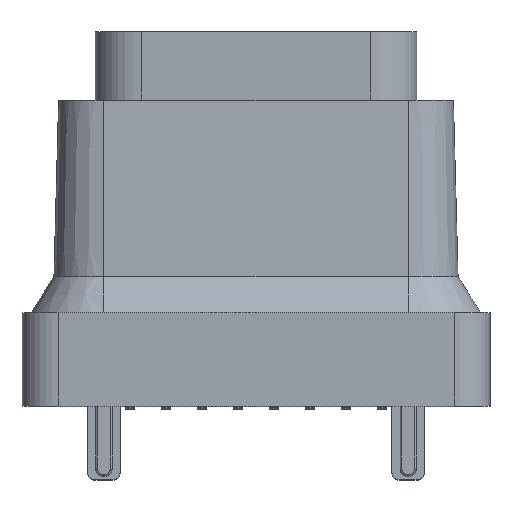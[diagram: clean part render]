
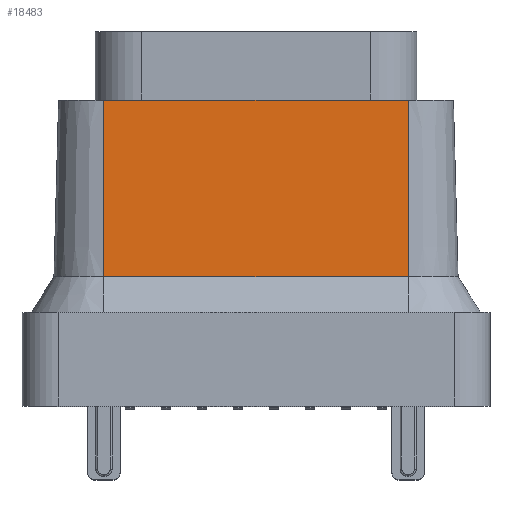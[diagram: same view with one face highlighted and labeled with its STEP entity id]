
A CAD part, top view. The second image highlights one B-rep face of the part: STEP entity #18483.
In plain terms, the highlighted planar face has unit normal (0, 0.026, 1).
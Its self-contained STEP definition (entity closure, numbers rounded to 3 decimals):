
#880 = ORIENTED_EDGE ( 'NONE', *, *, #17160, .T. ) ;
#2408 = ORIENTED_EDGE ( 'NONE', *, *, #16964, .T. ) ;
#3214 = CARTESIAN_POINT ( 'NONE',  ( 15.775, 3.6, 32.863 ) ) ;
#3303 = CARTESIAN_POINT ( 'NONE',  ( 24.225, 8.5, 32.734 ) ) ;
#4050 = PLANE ( 'NONE',  #8413 ) ;
#4229 = VECTOR ( 'NONE', #13858, 1000. ) ;
#4746 = EDGE_LOOP ( 'NONE', ( #8009, #12220, #880, #2408 ) ) ;
#4787 = CARTESIAN_POINT ( 'NONE',  ( 24.225, 3.6, 32.863 ) ) ;
#5093 = VERTEX_POINT ( 'NONE', #3303 ) ;
#5441 = CARTESIAN_POINT ( 'NONE',  ( 20., 6.05, 32.799 ) ) ;
#5474 = VECTOR ( 'NONE', #5661, 1000. ) ;
#5566 = VERTEX_POINT ( 'NONE', #3214 ) ;
#5661 = DIRECTION ( 'NONE',  ( 1., 0., 0. ) ) ;
#5703 = VERTEX_POINT ( 'NONE', #15707 ) ;
#8009 = ORIENTED_EDGE ( 'NONE', *, *, #16105, .T. ) ;
#8413 = AXIS2_PLACEMENT_3D ( 'NONE', #5441, #11539, #17634 ) ;
#8563 = LINE ( 'NONE', #14659, #5474 ) ;
#8858 = EDGE_CURVE ( 'NONE', #5703, #5566, #18785, .T. ) ;
#9481 = LINE ( 'NONE', #18675, #11235 ) ;
#10757 = LINE ( 'NONE', #12151, #4229 ) ;
#11188 = CARTESIAN_POINT ( 'NONE',  ( 15.775, 8.5, 32.734 ) ) ;
#11235 = VECTOR ( 'NONE', #14365, 1000. ) ;
#11539 = DIRECTION ( 'NONE',  ( 0., 0.026, 1. ) ) ;
#11748 = DIRECTION ( 'NONE',  ( 0., -1., 0.026 ) ) ;
#12151 = CARTESIAN_POINT ( 'NONE',  ( 24.225, 8.5, 32.734 ) ) ;
#12220 = ORIENTED_EDGE ( 'NONE', *, *, #8858, .T. ) ;
#12953 = FACE_OUTER_BOUND ( 'NONE', #4746, .T. ) ;
#13858 = DIRECTION ( 'NONE',  ( -1., 0., 0. ) ) ;
#13944 = VERTEX_POINT ( 'NONE', #4787 ) ;
#14365 = DIRECTION ( 'NONE',  ( 0., 1., -0.026 ) ) ;
#14659 = CARTESIAN_POINT ( 'NONE',  ( 15.775, 3.6, 32.863 ) ) ;
#15585 = VECTOR ( 'NONE', #11748, 1000. ) ;
#15707 = CARTESIAN_POINT ( 'NONE',  ( 15.775, 8.5, 32.734 ) ) ;
#16105 = EDGE_CURVE ( 'NONE', #5093, #5703, #10757, .T. ) ;
#16964 = EDGE_CURVE ( 'NONE', #13944, #5093, #9481, .T. ) ;
#17160 = EDGE_CURVE ( 'NONE', #5566, #13944, #8563, .T. ) ;
#17634 = DIRECTION ( 'NONE',  ( 1., 0., 0. ) ) ;
#18483 = ADVANCED_FACE ( 'NONE', ( #12953 ), #4050, .T. ) ;
#18675 = CARTESIAN_POINT ( 'NONE',  ( 24.225, 3.6, 32.863 ) ) ;
#18785 = LINE ( 'NONE', #11188, #15585 ) ;
